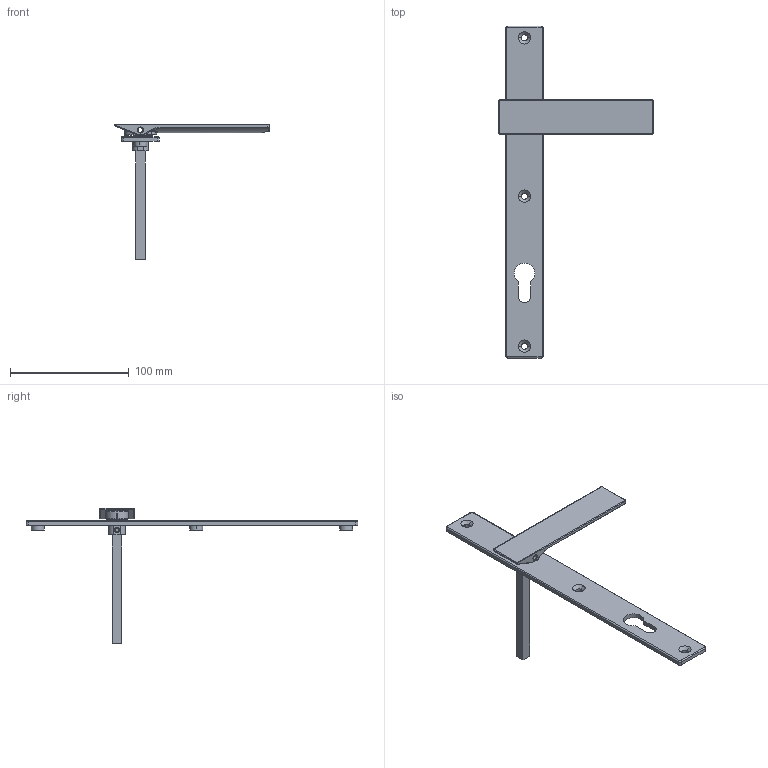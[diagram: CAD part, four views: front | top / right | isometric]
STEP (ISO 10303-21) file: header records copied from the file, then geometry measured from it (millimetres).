
FILE_DESCRIPTION (( 'STEP AP203' ), '1' );
FILE_NAME ('TPL-SS-002-100-B 27Apr2026.STEP', '2026-04-26T22:46:29', ( '' ), ( '' ), 'SwSTEP 2.0', 'SolidWorks 2023', '' );
FILE_SCHEMA (( 'CONFIG_CONTROL_DESIGN' ));
Length unit declared in the file: millimetre
Products named in the file (6): Copy of LKC-586 Spindle square 8mm with M4 hole - simplified^TPGen2 handle keyed internal SS - simplified_100mm; Copy of Escutcheon plate keyed internal 280mm - simplified^TPGen2 handle keyed internal SS - simplified; Copy of LKC-584 Pivot body zinc - simplified^TPGen2 handle keyed internal SS - simplified; TPL-SS-002-100-B 27Apr2026; Copy of LKC-506 Swing handle SS - simplified^TPGen2 handle keyed internal SS - simplified; Copy of LKC-585 Rotator body zinc - simplified^TPGen2 handle keyed internal SS - simplified
Assembly tree (5 placements, depth 2):
  TPL-SS-002-100-B 27Apr2026
    Copy of Escutcheon plate keyed internal 280mm - simplified^TPGen2 handle keyed internal SS - simplified
    Copy of LKC-586 Spindle square 8mm with M4 hole - simplified^TPGen2 handle keyed internal SS - simplified_100mm
    Copy of LKC-584 Pivot body zinc - simplified^TPGen2 handle keyed internal SS - simplified
    Copy of LKC-585 Rotator body zinc - simplified^TPGen2 handle keyed internal SS - simplified
    Copy of LKC-506 Swing handle SS - simplified^TPGen2 handle keyed internal SS - simplified
Bounding box: 130 x 280 x 114.55 mm (x, y, z)
Volume: 63544.9 mm3; surface area: 36185.9 mm2
Topology: 5 solids, 5 shells, 298 faces, 712 edges, 430 vertices
Faces by surface type: cylinder 113, plane 81, bspline 44, torus 36, cone 22, sphere 2
Entity records: 10250 total; most frequent: CARTESIAN_POINT 2934, ORIENTED_EDGE 1420, DIRECTION 1411, EDGE_CURVE 710, AXIS2_PLACEMENT_3D 559, VERTEX_POINT 430, EDGE_LOOP 332, ADVANCED_FACE 298
